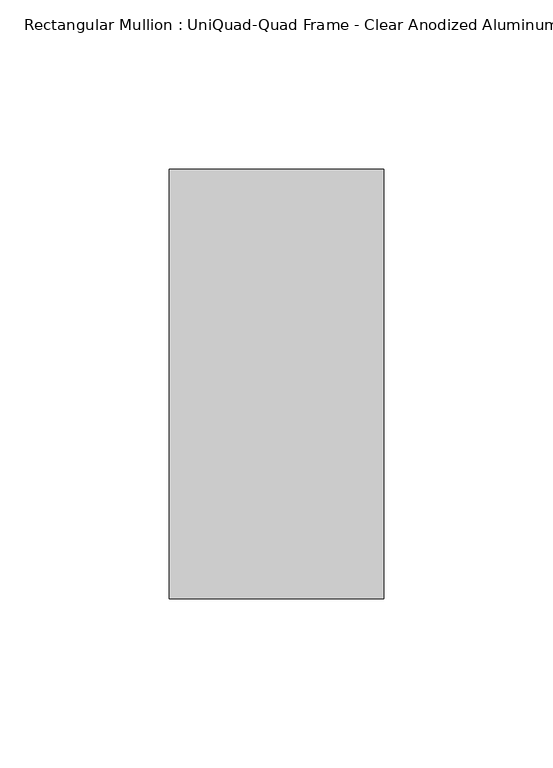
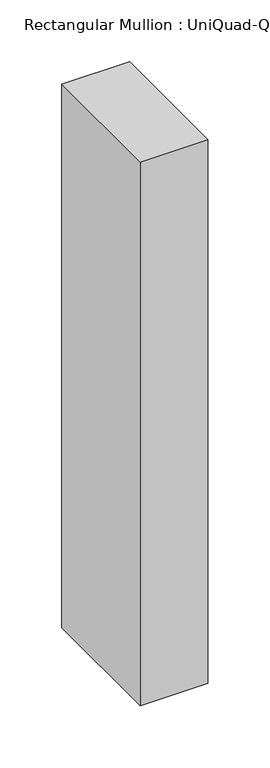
"""IFC4 building model written with IfcOpenShell, lengths in millimetres: member geometry, Rectangular Mullion : UniQuad-Quad Frame - Clear Anodized Aluminum."""

from ifc_helpers import new_model, si_unit, frame, origin, place, context, project, spatial, polyline, outline, extrude, source, transform, mapped, element, save


def rectangular_mullion_uniquad_quad_frame_clear_anodized_229f6564(model_context):
    return source(origin(), model_context, "Body", "SweptSolid", [
        extrude(outline(polyline([(0.0, 63.5), (0.0, -63.5), (-63.5, -63.5), (-63.5, 63.5), (0.0, 63.5)])), frame((0.0, 0.0, -538.4601563), z_axis=(0.0, 0.0, 1.0), x_axis=(1.0, 0.0, 0.0)), (0.0, 0.0, 1.0), 538.4601562),
    ])


if __name__ == "__main__":
    model = new_model("IFC4")
    model_context = context("Model", 3, world=origin())
    ifc_project = project(units=[si_unit("LENGTHUNIT", "METRE", prefix="MILLI")], contexts=[model_context])
    site = spatial("IfcSite", under=ifc_project)
    building = spatial("IfcBuilding", under=site)
    placement = place(None, origin())
    rectangular_mullion_uniquad_quad_frame_clear_anodized_shape = rectangular_mullion_uniquad_quad_frame_clear_anodized_229f6564(model_context)
    element("IfcMember", 1, ObjectType="Rectangular Mullion : UniQuad-Quad Frame - Clear Anodized Aluminum", at=placement, inside=building, context=model_context, shape_type="MappedRepresentation", body=[
        mapped(rectangular_mullion_uniquad_quad_frame_clear_anodized_shape, transform((0.0, 0.0, 0.0), x_axis=(1.0, 0.0, 0.0), y_axis=(0.0, 1.0, 0.0), z_axis=(0.0, 0.0, 1.0))),
    ])
    save(model, "model.ifc")
